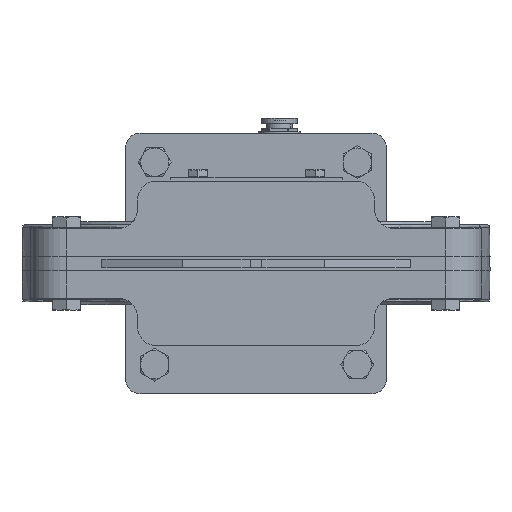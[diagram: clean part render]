
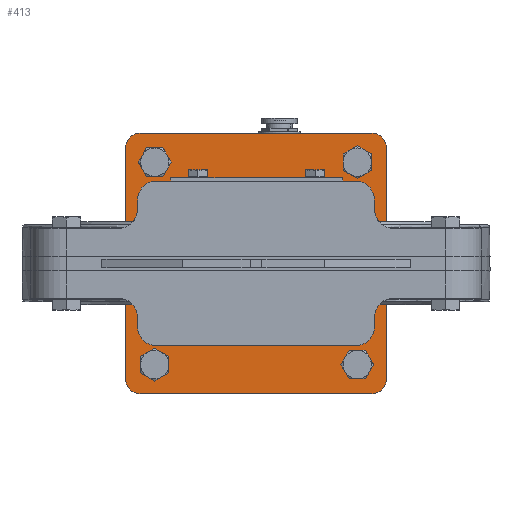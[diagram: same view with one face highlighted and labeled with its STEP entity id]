
A CAD part, front view. The second image highlights one B-rep face of the part: STEP entity #413.
In plain terms, the highlighted planar face has unit normal (0, -1, 0).
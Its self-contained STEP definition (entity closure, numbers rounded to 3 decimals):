
#413=ADVANCED_FACE('',(#14840,#14842,#14844,#14846,#14848,#14850,#14852,#14854,#14856,
#14858,#14860),#14862,.F.);
#14840=FACE_BOUND('',#14841,.T.);
#14841=EDGE_LOOP('',(#27078,#27079,#27080,#27081,#27082,#27083,#27084,#27085));
#14842=FACE_BOUND('',#14843,.T.);
#14843=EDGE_LOOP('',(#27086));
#14844=FACE_BOUND('',#14845,.T.);
#14845=EDGE_LOOP('',(#27087));
#14846=FACE_BOUND('',#14847,.T.);
#14847=EDGE_LOOP('',(#27088));
#14848=FACE_BOUND('',#14849,.T.);
#14849=EDGE_LOOP('',(#27089));
#14850=FACE_BOUND('',#14851,.T.);
#14851=EDGE_LOOP('',(#27090));
#14852=FACE_BOUND('',#14853,.T.);
#14853=EDGE_LOOP('',(#27091));
#14854=FACE_BOUND('',#14855,.T.);
#14855=EDGE_LOOP('',(#27092));
#14856=FACE_BOUND('',#14857,.T.);
#14857=EDGE_LOOP('',(#27093,#27094,#27095,#27096));
#14858=FACE_BOUND('',#14859,.T.);
#14859=EDGE_LOOP('',(#27097));
#14860=FACE_BOUND('',#14861,.T.);
#14861=EDGE_LOOP('',(#27098));
#14862=PLANE('',#14863);
#14863=AXIS2_PLACEMENT_3D('',#14864,#14865,#14866);
#14864=CARTESIAN_POINT('',(0.,840.,0.));
#14865=DIRECTION('',(0.,1.,0.));
#14866=DIRECTION('',(0.,0.,1.));
#27078=ORIENTED_EDGE('',*,*,#34839,.F.);
#27079=ORIENTED_EDGE('',*,*,#34840,.F.);
#27080=ORIENTED_EDGE('',*,*,#34841,.F.);
#27081=ORIENTED_EDGE('',*,*,#34842,.F.);
#27082=ORIENTED_EDGE('',*,*,#34843,.F.);
#27083=ORIENTED_EDGE('',*,*,#34844,.F.);
#27084=ORIENTED_EDGE('',*,*,#34845,.F.);
#27085=ORIENTED_EDGE('',*,*,#34846,.F.);
#27086=ORIENTED_EDGE('',*,*,#34847,.F.);
#27087=ORIENTED_EDGE('',*,*,#34848,.F.);
#27088=ORIENTED_EDGE('',*,*,#34849,.F.);
#27089=ORIENTED_EDGE('',*,*,#34850,.T.);
#27090=ORIENTED_EDGE('',*,*,#34851,.T.);
#27091=ORIENTED_EDGE('',*,*,#34852,.T.);
#27092=ORIENTED_EDGE('',*,*,#34853,.T.);
#27093=ORIENTED_EDGE('',*,*,#34854,.T.);
#27094=ORIENTED_EDGE('',*,*,#34855,.T.);
#27095=ORIENTED_EDGE('',*,*,#34856,.T.);
#27096=ORIENTED_EDGE('',*,*,#34857,.T.);
#27097=ORIENTED_EDGE('',*,*,#34858,.F.);
#27098=ORIENTED_EDGE('',*,*,#34859,.F.);
#34839=EDGE_CURVE('',#38606,#38607,#38608,.T.);
#34840=EDGE_CURVE('',#38609,#38606,#38610,.T.);
#34841=EDGE_CURVE('',#38611,#38609,#38612,.T.);
#34842=EDGE_CURVE('',#38613,#38611,#38614,.T.);
#34843=EDGE_CURVE('',#38615,#38613,#38616,.T.);
#34844=EDGE_CURVE('',#38617,#38615,#38618,.T.);
#34845=EDGE_CURVE('',#38619,#38617,#38620,.T.);
#34846=EDGE_CURVE('',#38607,#38619,#38621,.T.);
#34847=EDGE_CURVE('',#38622,#38622,#38623,.T.);
#34848=EDGE_CURVE('',#38624,#38624,#38625,.F.);
#34849=EDGE_CURVE('',#38626,#38626,#38627,.F.);
#34850=EDGE_CURVE('',#38628,#38628,#38629,.T.);
#34851=EDGE_CURVE('',#38630,#38630,#38631,.T.);
#34852=EDGE_CURVE('',#38632,#38632,#38633,.T.);
#34853=EDGE_CURVE('',#38634,#38634,#38635,.T.);
#34854=EDGE_CURVE('',#38636,#38637,#38638,.T.);
#34855=EDGE_CURVE('',#38637,#38639,#38640,.T.);
#34856=EDGE_CURVE('',#38639,#38641,#38642,.T.);
#34857=EDGE_CURVE('',#38641,#38636,#38643,.T.);
#34858=EDGE_CURVE('',#38644,#38644,#38645,.F.);
#34859=EDGE_CURVE('',#38646,#38646,#38647,.F.);
#38606=VERTEX_POINT('',#44977);
#38607=VERTEX_POINT('',#44978);
#38608=CIRCLE('',#44979,12.25);
#38609=VERTEX_POINT('',#44983);
#38610=LINE('',#44984,#44985);
#38611=VERTEX_POINT('',#44987);
#38612=CIRCLE('',#44988,12.25);
#38613=VERTEX_POINT('',#44992);
#38614=LINE('',#44993,#44994);
#38615=VERTEX_POINT('',#44996);
#38616=CIRCLE('',#44997,12.25);
#38617=VERTEX_POINT('',#45001);
#38618=LINE('',#45002,#45003);
#38619=VERTEX_POINT('',#45005);
#38620=CIRCLE('',#45006,12.25);
#38621=LINE('',#45010,#45011);
#38622=VERTEX_POINT('',#45013);
#38623=CIRCLE('',#45014,40.);
#38624=VERTEX_POINT('',#45018);
#38625=CIRCLE('',#45019,12.);
#38626=VERTEX_POINT('',#45023);
#38627=CIRCLE('',#45024,12.);
#38628=VERTEX_POINT('',#45028);
#38629=CIRCLE('',#45029,11.);
#38630=VERTEX_POINT('',#45033);
#38631=CIRCLE('',#45034,11.);
#38632=VERTEX_POINT('',#45038);
#38633=CIRCLE('',#45039,11.);
#38634=VERTEX_POINT('',#45043);
#38635=CIRCLE('',#45044,11.);
#38636=VERTEX_POINT('',#45048);
#38637=VERTEX_POINT('',#45049);
#38638=LINE('',#45050,#45051);
#38639=VERTEX_POINT('',#45053);
#38640=LINE('',#45054,#45055);
#38641=VERTEX_POINT('',#45057);
#38642=LINE('',#45058,#45059);
#38643=LINE('',#45061,#45062);
#38644=VERTEX_POINT('',#45064);
#38645=CIRCLE('',#45065,12.);
#38646=VERTEX_POINT('',#45069);
#38647=CIRCLE('',#45070,12.);
#44977=CARTESIAN_POINT('',(-97.75,840.,-110.));
#44978=CARTESIAN_POINT('',(-110.,840.,-97.75));
#44979=AXIS2_PLACEMENT_3D('',#44980,#44981,#44982);
#44980=CARTESIAN_POINT('',(-97.75,840.,-97.75));
#44981=DIRECTION('',(0.,1.,0.));
#44982=DIRECTION('',(0.,0.,-1.));
#44983=CARTESIAN_POINT('',(97.75,840.,-110.));
#44984=CARTESIAN_POINT('',(97.75,840.,-110.));
#44985=VECTOR('',#44986,1.);
#44986=DIRECTION('',(-1.,0.,0.));
#44987=CARTESIAN_POINT('',(110.,840.,-97.75));
#44988=AXIS2_PLACEMENT_3D('',#44989,#44990,#44991);
#44989=CARTESIAN_POINT('',(97.75,840.,-97.75));
#44990=DIRECTION('',(0.,1.,0.));
#44991=DIRECTION('',(1.,0.,0.));
#44992=CARTESIAN_POINT('',(110.,840.,97.75));
#44993=CARTESIAN_POINT('',(110.,840.,97.75));
#44994=VECTOR('',#44995,1.);
#44995=DIRECTION('',(0.,0.,-1.));
#44996=CARTESIAN_POINT('',(97.75,840.,110.));
#44997=AXIS2_PLACEMENT_3D('',#44998,#44999,#45000);
#44998=CARTESIAN_POINT('',(97.75,840.,97.75));
#44999=DIRECTION('',(0.,1.,0.));
#45000=DIRECTION('',(0.,0.,1.));
#45001=CARTESIAN_POINT('',(-97.75,840.,110.));
#45002=CARTESIAN_POINT('',(-97.75,840.,110.));
#45003=VECTOR('',#45004,1.);
#45004=DIRECTION('',(1.,0.,0.));
#45005=CARTESIAN_POINT('',(-110.,840.,97.75));
#45006=AXIS2_PLACEMENT_3D('',#45007,#45008,#45009);
#45007=CARTESIAN_POINT('',(-97.75,840.,97.75));
#45008=DIRECTION('',(0.,1.,0.));
#45009=DIRECTION('',(-1.,0.,0.));
#45010=CARTESIAN_POINT('',(-110.,840.,-97.75));
#45011=VECTOR('',#45012,1.);
#45012=DIRECTION('',(0.,0.,1.));
#45013=CARTESIAN_POINT('',(0.,840.,-40.));
#45014=AXIS2_PLACEMENT_3D('',#45015,#45016,#45017);
#45015=CARTESIAN_POINT('',(0.,840.,0.));
#45016=DIRECTION('',(0.,-1.,0.));
#45017=DIRECTION('',(0.,0.,-1.));
#45018=CARTESIAN_POINT('',(79.467,840.,-95.86));
#45019=AXIS2_PLACEMENT_3D('',#45020,#45021,#45022);
#45020=CARTESIAN_POINT('',(85.467,840.,-85.467));
#45021=DIRECTION('',(0.,1.,0.));
#45022=DIRECTION('',(-0.5,0.,-0.866));
#45023=CARTESIAN_POINT('',(-79.467,840.,95.86));
#45024=AXIS2_PLACEMENT_3D('',#45025,#45026,#45027);
#45025=CARTESIAN_POINT('',(-85.467,840.,85.467));
#45026=DIRECTION('',(0.,1.,0.));
#45027=DIRECTION('',(0.5,0.,0.866));
#45028=CARTESIAN_POINT('',(71.5,840.,50.));
#45029=AXIS2_PLACEMENT_3D('',#45030,#45031,#45032);
#45030=CARTESIAN_POINT('',(82.5,840.,50.));
#45031=DIRECTION('',(0.,1.,0.));
#45032=DIRECTION('',(-1.,0.,0.));
#45033=CARTESIAN_POINT('',(-93.5,840.,-50.));
#45034=AXIS2_PLACEMENT_3D('',#45035,#45036,#45037);
#45035=CARTESIAN_POINT('',(-82.5,840.,-50.));
#45036=DIRECTION('',(0.,1.,0.));
#45037=DIRECTION('',(-1.,0.,0.));
#45038=CARTESIAN_POINT('',(-93.5,840.,50.));
#45039=AXIS2_PLACEMENT_3D('',#45040,#45041,#45042);
#45040=CARTESIAN_POINT('',(-82.5,840.,50.));
#45041=DIRECTION('',(0.,1.,0.));
#45042=DIRECTION('',(-1.,0.,0.));
#45043=CARTESIAN_POINT('',(71.5,840.,-50.));
#45044=AXIS2_PLACEMENT_3D('',#45045,#45046,#45047);
#45045=CARTESIAN_POINT('',(82.5,840.,-50.));
#45046=DIRECTION('',(0.,1.,0.));
#45047=DIRECTION('',(-1.,0.,0.));
#45048=CARTESIAN_POINT('',(-71.914,840.,69.5));
#45049=CARTESIAN_POINT('',(-71.914,840.,72.5));
#45050=CARTESIAN_POINT('',(-71.914,840.,69.5));
#45051=VECTOR('',#45052,1.);
#45052=DIRECTION('',(0.,0.,1.));
#45053=CARTESIAN_POINT('',(73.086,840.,72.5));
#45054=CARTESIAN_POINT('',(-71.914,840.,72.5));
#45055=VECTOR('',#45056,1.);
#45056=DIRECTION('',(1.,0.,0.));
#45057=CARTESIAN_POINT('',(73.086,840.,69.5));
#45058=CARTESIAN_POINT('',(73.086,840.,72.5));
#45059=VECTOR('',#45060,1.);
#45060=DIRECTION('',(0.,0.,-1.));
#45061=CARTESIAN_POINT('',(73.086,840.,69.5));
#45062=VECTOR('',#45063,1.);
#45063=DIRECTION('',(-1.,0.,0.));
#45064=CARTESIAN_POINT('',(-95.86,840.,-79.467));
#45065=AXIS2_PLACEMENT_3D('',#45066,#45067,#45068);
#45066=CARTESIAN_POINT('',(-85.467,840.,-85.467));
#45067=DIRECTION('',(0.,1.,0.));
#45068=DIRECTION('',(-0.866,0.,0.5));
#45069=CARTESIAN_POINT('',(95.86,840.,79.467));
#45070=AXIS2_PLACEMENT_3D('',#45071,#45072,#45073);
#45071=CARTESIAN_POINT('',(85.467,840.,85.467));
#45072=DIRECTION('',(0.,1.,0.));
#45073=DIRECTION('',(0.866,0.,-0.5));
